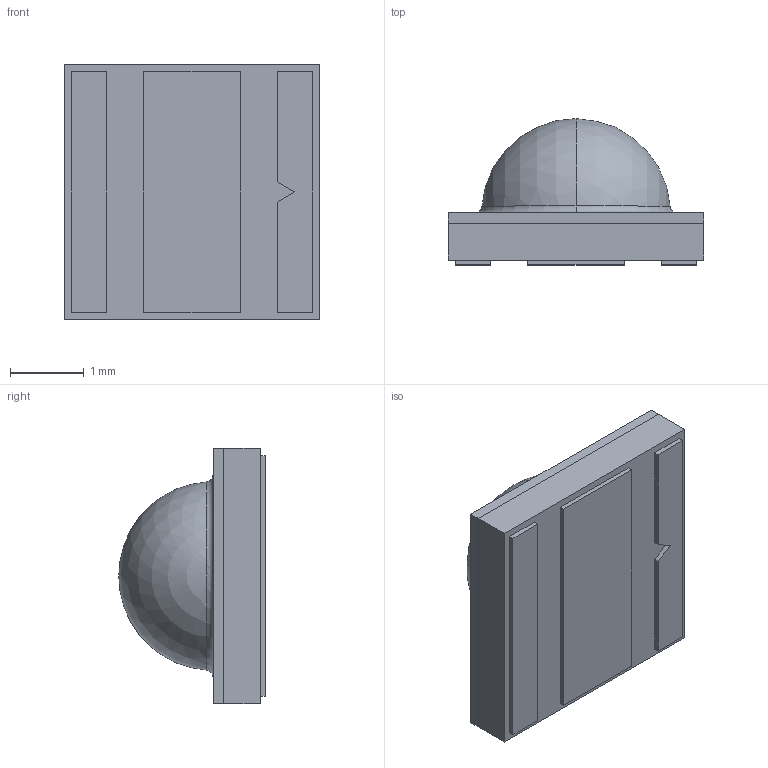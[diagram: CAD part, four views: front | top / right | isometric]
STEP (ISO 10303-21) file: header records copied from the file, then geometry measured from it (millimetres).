
FILE_DESCRIPTION (( 'STEP AP203' ), '1' );
FILE_NAME ('XD2.STEP', '2024-01-18T07:11:13', ( '' ), ( '' ), 'SwSTEP 2.0', 'SolidWorks 2016', '' );
FILE_SCHEMA (( 'CONFIG_CONTROL_DESIGN' ));
Length unit declared in the file: millimetre
Products named in the file (1): XD2
Bounding box: 3.45 x 1.98 x 3.45 mm (x, y, z)
Volume: 12.4 mm3; surface area: 62.8 mm2
Topology: 2 solids, 2 shells, 34 faces, 77 edges, 51 vertices
Faces by surface type: plane 30, sphere 2, torus 2
Entity records: 1016 total; most frequent: CARTESIAN_POINT 163, DIRECTION 155, ORIENTED_EDGE 154, EDGE_CURVE 77, VECTOR 69, LINE 69, VERTEX_POINT 51, AXIS2_PLACEMENT_3D 43
